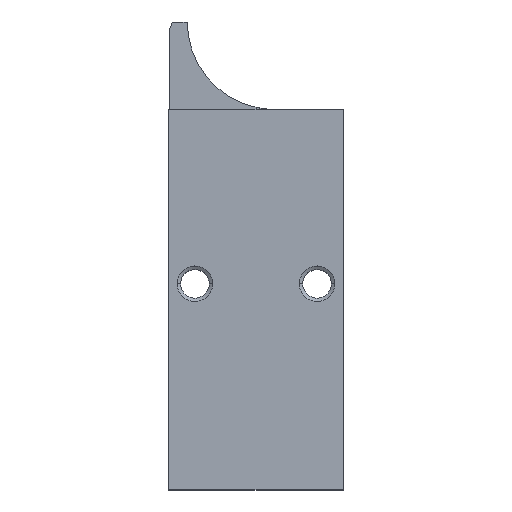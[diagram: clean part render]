
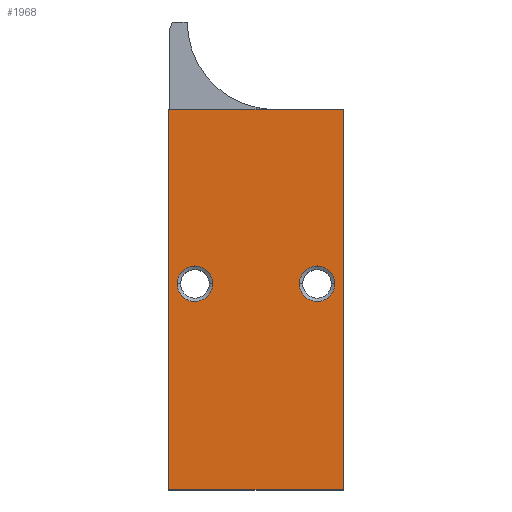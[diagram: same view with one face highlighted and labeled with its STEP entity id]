
A CAD part, top view. The second image highlights one B-rep face of the part: STEP entity #1968.
In plain terms, the highlighted planar face has unit normal (0, 0, 1).
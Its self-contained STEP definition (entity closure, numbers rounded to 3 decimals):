
#27 = CIRCLE ( 'NONE', #2755, 5.1 ) ;
#77 = CIRCLE ( 'NONE', #2863, 5.1 ) ;
#78 = CIRCLE ( 'NONE', #2865, 5.1 ) ;
#111 = LINE ( 'NONE', #937, #116 ) ;
#116 = VECTOR ( 'NONE', #634, 1000. ) ;
#166 = CARTESIAN_POINT ( 'NONE',  ( 0., 109., 40. ) ) ;
#172 = VERTEX_POINT ( 'NONE', #258 ) ;
#178 = VERTEX_POINT ( 'NONE', #265 ) ;
#182 = VERTEX_POINT ( 'NONE', #247 ) ;
#206 = CARTESIAN_POINT ( 'NONE',  ( 0., 0., 40. ) ) ;
#247 = CARTESIAN_POINT ( 'NONE',  ( 47.6, 59., 40. ) ) ;
#258 = CARTESIAN_POINT ( 'NONE',  ( 37.4, 59., 40. ) ) ;
#265 = CARTESIAN_POINT ( 'NONE',  ( 12.6, 59., 40. ) ) ;
#293 = CARTESIAN_POINT ( 'NONE',  ( 50., 0., 40. ) ) ;
#296 = VERTEX_POINT ( 'NONE', #499 ) ;
#398 = CARTESIAN_POINT ( 'NONE',  ( 2.4, 59., 40. ) ) ;
#414 = VERTEX_POINT ( 'NONE', #293 ) ;
#480 = VERTEX_POINT ( 'NONE', #166 ) ;
#499 = CARTESIAN_POINT ( 'NONE',  ( 50., 109., 40. ) ) ;
#506 = VERTEX_POINT ( 'NONE', #206 ) ;
#547 = VERTEX_POINT ( 'NONE', #398 ) ;
#610 = DIRECTION ( 'NONE',  ( 0., 0., -1. ) ) ;
#634 = DIRECTION ( 'NONE',  ( 0., 1., 0. ) ) ;
#635 = DIRECTION ( 'NONE',  ( 1., 0., 0. ) ) ;
#651 = DIRECTION ( 'NONE',  ( 0., 0., 1. ) ) ;
#688 = CARTESIAN_POINT ( 'NONE',  ( 42.5, 59., 40. ) ) ;
#773 = DIRECTION ( 'NONE',  ( 1., 0., 0. ) ) ;
#785 = CARTESIAN_POINT ( 'NONE',  ( 0., 109., 40. ) ) ;
#849 = PLANE ( 'NONE',  #2810 ) ;
#864 = CARTESIAN_POINT ( 'NONE',  ( 7.5, 59., 40. ) ) ;
#920 = DIRECTION ( 'NONE',  ( 1., 0., 0. ) ) ;
#935 = DIRECTION ( 'NONE',  ( 1., 0., 0. ) ) ;
#937 = CARTESIAN_POINT ( 'NONE',  ( 50., 0., 40. ) ) ;
#968 = DIRECTION ( 'NONE',  ( -1., 0., 0. ) ) ;
#976 = CARTESIAN_POINT ( 'NONE',  ( 0., 109., 40. ) ) ;
#983 = DIRECTION ( 'NONE',  ( 0., 0., 1. ) ) ;
#993 = DIRECTION ( 'NONE',  ( 0., 0., 1. ) ) ;
#1029 = CARTESIAN_POINT ( 'NONE',  ( 0., 0., 40. ) ) ;
#1073 = CARTESIAN_POINT ( 'NONE',  ( 0., 0., 40. ) ) ;
#1078 = DIRECTION ( 'NONE',  ( 0., -1., 0. ) ) ;
#1155 = DIRECTION ( 'NONE',  ( -1., 0., 0. ) ) ;
#1493 = DIRECTION ( 'NONE',  ( 1., 0., 0. ) ) ;
#1494 = DIRECTION ( 'NONE',  ( 0., 0., 1. ) ) ;
#1495 = CARTESIAN_POINT ( 'NONE',  ( 42.5, 59., 40. ) ) ;
#1549 = CARTESIAN_POINT ( 'NONE',  ( 7.5, 59., 40. ) ) ;
#1727 = EDGE_CURVE ( 'NONE', #480, #506, #2463, .T. ) ;
#1753 = EDGE_CURVE ( 'NONE', #506, #414, #2162, .T. ) ;
#1777 = EDGE_CURVE ( 'NONE', #414, #296, #111, .T. ) ;
#1799 = EDGE_CURVE ( 'NONE', #296, #480, #3271, .T. ) ;
#1804 = EDGE_CURVE ( 'NONE', #182, #172, #78, .T. ) ;
#1806 = EDGE_CURVE ( 'NONE', #178, #547, #77, .T. ) ;
#1836 = EDGE_CURVE ( 'NONE', #547, #178, #2355, .T. ) ;
#1968 = ADVANCED_FACE ( 'NONE', ( #2307, #2272, #2268 ), #849, .F. ) ;
#2110 = VECTOR ( 'NONE', #968, 1000. ) ;
#2161 = VECTOR ( 'NONE', #635, 1000. ) ;
#2162 = LINE ( 'NONE', #1029, #2161 ) ;
#2268 = FACE_OUTER_BOUND ( 'NONE', #3558, .T. ) ;
#2272 = FACE_BOUND ( 'NONE', #3521, .T. ) ;
#2307 = FACE_BOUND ( 'NONE', #3517, .T. ) ;
#2355 = CIRCLE ( 'NONE', #2857, 5.1 ) ;
#2407 = VECTOR ( 'NONE', #1078, 1000. ) ;
#2439 = ORIENTED_EDGE ( 'NONE', *, *, #1804, .F. ) ;
#2463 = LINE ( 'NONE', #1073, #2407 ) ;
#2641 = EDGE_CURVE ( 'NONE', #172, #182, #27, .T. ) ;
#2755 = AXIS2_PLACEMENT_3D ( 'NONE', #1495, #1494, #1493 ) ;
#2810 = AXIS2_PLACEMENT_3D ( 'NONE', #785, #610, #1155 ) ;
#2857 = AXIS2_PLACEMENT_3D ( 'NONE', #1549, #993, #920 ) ;
#2863 = AXIS2_PLACEMENT_3D ( 'NONE', #864, #983, #935 ) ;
#2865 = AXIS2_PLACEMENT_3D ( 'NONE', #688, #651, #773 ) ;
#3271 = LINE ( 'NONE', #976, #2110 ) ;
#3368 = ORIENTED_EDGE ( 'NONE', *, *, #1836, .F. ) ;
#3372 = ORIENTED_EDGE ( 'NONE', *, *, #1799, .T. ) ;
#3379 = ORIENTED_EDGE ( 'NONE', *, *, #2641, .F. ) ;
#3381 = ORIENTED_EDGE ( 'NONE', *, *, #1777, .T. ) ;
#3428 = ORIENTED_EDGE ( 'NONE', *, *, #1727, .T. ) ;
#3517 = EDGE_LOOP ( 'NONE', ( #2439, #3379 ) ) ;
#3521 = EDGE_LOOP ( 'NONE', ( #3585, #3368 ) ) ;
#3558 = EDGE_LOOP ( 'NONE', ( #3428, #3576, #3381, #3372 ) ) ;
#3576 = ORIENTED_EDGE ( 'NONE', *, *, #1753, .T. ) ;
#3585 = ORIENTED_EDGE ( 'NONE', *, *, #1806, .F. ) ;
